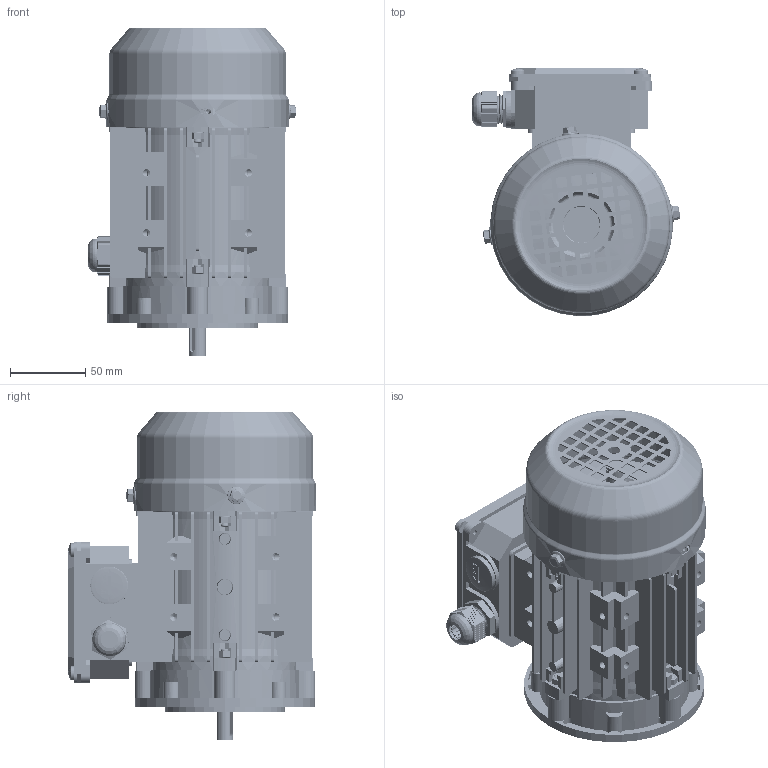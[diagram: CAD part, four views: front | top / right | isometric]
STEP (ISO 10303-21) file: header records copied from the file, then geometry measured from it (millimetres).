
FILE_DESCRIPTION (( 'STEP AP203' ), '1' );
FILE_NAME ('MS-63 B14B 3Dͼ.STEP', '2024-08-22T06:40:50', ( 'User' ), ( 'China' ), 'SwSTEP 2.0', 'SolidWorks 2018', '' );
FILE_SCHEMA (( 'CONFIG_CONTROL_DESIGN' ));
Length unit declared in the file: millimetre
Products named in the file (18): MS63  B14B傷裔; 蹟簸M20X1.5; MS63 儂褲; MS-63 B14B  3Dͼ; 黑芛20X1.5; MS63 B3綴裔; hexagon socket head cap screws gb_GB_FASTENER_SCREWS_HSHCS M5X25-S; deep groove ball bearings gb_Rolling bearings 6201 GB 276-94; hex nuts, style 1-grades ab gb_GB_FASTENER_NUT_SNAB1 M5-S; MS63 蛌粣; spring lock washers--normal type gb_GB_FASTENER_WASHER_SW 5; 蚐猾24X12X5; MS63 邧脯瑞欶; MS63-71諉盄碟菁釱; hex flange bolts-heavy grade b gb_GB_FASTENER_BOLT_HFBB M5X10-S; MS63-71諉盄碟裔; cross recessed pan head screws gb_GB_CROSS_SCREWS_TYPE1 M5X6-6  H type-S; 蹟杶郋M20X1.5
Assembly tree (40 placements, depth 2):
  MS-63 B14B  3Dͼ
    MS63 儂褲
    MS63 B3綴裔
    deep groove ball bearings gb_Rolling bearings 6201 GB 276-94  x2
    MS63 蛌粣
    蚐猾24X12X5  x2
    MS63-71諉盄碟菁釱
    MS63-71諉盄碟裔
    蹟杶郋M20X1.5
    蹟簸M20X1.5
    黑芛20X1.5
    hexagon socket head cap screws gb_GB_FASTENER_SCREWS_HSHCS M5X25-S  x8
    hex nuts, style 1-grades ab gb_GB_FASTENER_NUT_SNAB1 M5-S  x7
    spring lock washers--normal type gb_GB_FASTENER_WASHER_SW 5  x4
    MS63 邧脯瑞欶
    hex flange bolts-heavy grade b gb_GB_FASTENER_BOLT_HFBB M5X10-S  x3
    cross recessed pan head screws gb_GB_CROSS_SCREWS_TYPE1 M5X6-6  H type-S  x4
    MS63  B14B傷裔
Bounding box: 138.64 x 165.27 x 218.64 mm (x, y, z)
Volume: 501695.3 mm3; surface area: 386319.3 mm2
Topology: 43 solids, 43 shells, 6713 faces, 16227 edges, 9566 vertices
Faces by surface type: cone 2499, plane 1988, cylinder 1792, torus 208, bspline 170, sphere 56
Entity records: 133051 total; most frequent: CARTESIAN_POINT 45550, ORIENTED_EDGE 18662, DIRECTION 16479, EDGE_CURVE 9331, VERTEX_POINT 5949, AXIS2_PLACEMENT_3D 5698, LINE 5083, VECTOR 5083
